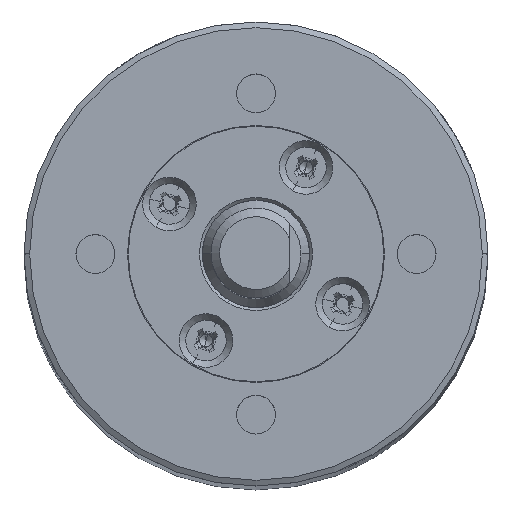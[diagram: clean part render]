
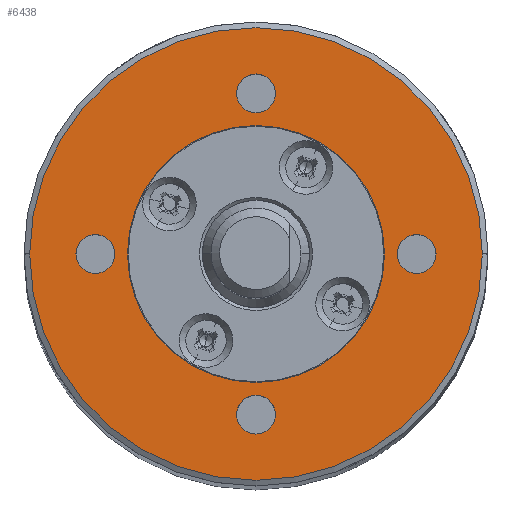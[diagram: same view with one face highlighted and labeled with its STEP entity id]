
A CAD part, top view. The second image highlights one B-rep face of the part: STEP entity #6438.
In plain terms, the highlighted planar face has unit normal (0, 0, 1).
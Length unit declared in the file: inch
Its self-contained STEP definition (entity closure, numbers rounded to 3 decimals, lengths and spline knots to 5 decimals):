
#44 = EDGE_CURVE ( 'NONE', #4057, #3678, #7652, .T. ) ;
#100 = VERTEX_POINT ( 'NONE', #13778 ) ;
#146 = DIRECTION ( 'NONE',  ( 0., 0., 1. ) ) ;
#404 = DIRECTION ( 'NONE',  ( 0., 0., 1. ) ) ;
#437 = ORIENTED_EDGE ( 'NONE', *, *, #15173, .T. ) ;
#618 = ORIENTED_EDGE ( 'NONE', *, *, #7665, .F. ) ;
#667 = EDGE_LOOP ( 'NONE', ( #14640, #437 ) ) ;
#679 = EDGE_CURVE ( 'NONE', #11219, #12968, #3047, .T. ) ;
#719 = ORIENTED_EDGE ( 'NONE', *, *, #15993, .F. ) ;
#811 = ORIENTED_EDGE ( 'NONE', *, *, #13935, .F. ) ;
#883 = FACE_BOUND ( 'NONE', #8934, .T. ) ;
#1019 = DIRECTION ( 'NONE',  ( 0., 0., 1. ) ) ;
#1065 = CARTESIAN_POINT ( 'NONE',  ( 0., 0., 4.92548 ) ) ;
#1158 = CIRCLE ( 'NONE', #6070, 0.068 ) ;
#1293 = CARTESIAN_POINT ( 'NONE',  ( 0.4945, 0., 4.92548 ) ) ;
#1330 = CIRCLE ( 'NONE', #15172, 0.45 ) ;
#1583 = EDGE_LOOP ( 'NONE', ( #6445, #719 ) ) ;
#1634 = CARTESIAN_POINT ( 'NONE',  ( 0.6305, 0., 4.92548 ) ) ;
#1653 = DIRECTION ( 'NONE',  ( 0., 0., 1. ) ) ;
#1659 = DIRECTION ( 'NONE',  ( 0., 0., 1. ) ) ;
#1705 = ORIENTED_EDGE ( 'NONE', *, *, #679, .F. ) ;
#1721 = CARTESIAN_POINT ( 'NONE',  ( -0.5625, 0., 4.92548 ) ) ;
#1866 = VERTEX_POINT ( 'NONE', #11350 ) ;
#1886 = AXIS2_PLACEMENT_3D ( 'NONE', #7502, #1019, #10137 ) ;
#1981 = VERTEX_POINT ( 'NONE', #2755 ) ;
#2609 = CARTESIAN_POINT ( 'NONE',  ( -0.5625, 0., 4.92548 ) ) ;
#2755 = CARTESIAN_POINT ( 'NONE',  ( -0.068, -0.5625, 4.92548 ) ) ;
#2911 = CIRCLE ( 'NONE', #16460, 0.068 ) ;
#3017 = DIRECTION ( 'NONE',  ( 1., 0., 0. ) ) ;
#3039 = CARTESIAN_POINT ( 'NONE',  ( 0., 0., 4.92548 ) ) ;
#3047 = CIRCLE ( 'NONE', #10658, 0.068 ) ;
#3049 = DIRECTION ( 'NONE',  ( 0., 0., 1. ) ) ;
#3272 = CARTESIAN_POINT ( 'NONE',  ( 0., 0.45, 4.92548 ) ) ;
#3368 = CIRCLE ( 'NONE', #14479, 0.45 ) ;
#3678 = VERTEX_POINT ( 'NONE', #7654 ) ;
#4057 = VERTEX_POINT ( 'NONE', #7403 ) ;
#4118 = EDGE_LOOP ( 'NONE', ( #15366, #1705 ) ) ;
#4120 = CARTESIAN_POINT ( 'NONE',  ( 0.45, 0., 4.92548 ) ) ;
#4143 = EDGE_CURVE ( 'NONE', #14711, #6701, #11647, .T. ) ;
#4273 = ORIENTED_EDGE ( 'NONE', *, *, #44, .F. ) ;
#4316 = CARTESIAN_POINT ( 'NONE',  ( 0.5625, 0., 4.92548 ) ) ;
#4452 = DIRECTION ( 'NONE',  ( 1., 0., 0. ) ) ;
#4751 = DIRECTION ( 'NONE',  ( -1., 0., 0. ) ) ;
#4852 = CIRCLE ( 'NONE', #14334, 0.7925 ) ;
#4899 = ORIENTED_EDGE ( 'NONE', *, *, #12578, .F. ) ;
#4909 = CIRCLE ( 'NONE', #10062, 0.068 ) ;
#4926 = DIRECTION ( 'NONE',  ( 0., 0., 1. ) ) ;
#5136 = AXIS2_PLACEMENT_3D ( 'NONE', #15517, #146, #5169 ) ;
#5169 = DIRECTION ( 'NONE',  ( 1., 0., 0. ) ) ;
#5393 = DIRECTION ( 'NONE',  ( 0., 0., 1. ) ) ;
#5430 = DIRECTION ( 'NONE',  ( 1., 0., 0. ) ) ;
#5485 = CIRCLE ( 'NONE', #14954, 0.7925 ) ;
#5773 = DIRECTION ( 'NONE',  ( 0., 0., 1. ) ) ;
#5942 = CARTESIAN_POINT ( 'NONE',  ( 0., 0.5625, 4.92548 ) ) ;
#6070 = AXIS2_PLACEMENT_3D ( 'NONE', #2609, #4926, #10110 ) ;
#6280 = EDGE_LOOP ( 'NONE', ( #811, #7003 ) ) ;
#6438 = ADVANCED_FACE ( 'NONE', ( #13542, #883, #7024, #13714, #9741, #16338 ), #14895, .F. ) ;
#6445 = ORIENTED_EDGE ( 'NONE', *, *, #12676, .F. ) ;
#6573 = AXIS2_PLACEMENT_3D ( 'NONE', #1721, #5393, #4452 ) ;
#6701 = VERTEX_POINT ( 'NONE', #1634 ) ;
#6716 = CARTESIAN_POINT ( 'NONE',  ( 0., 0.5625, 4.92548 ) ) ;
#7003 = ORIENTED_EDGE ( 'NONE', *, *, #4143, .F. ) ;
#7004 = EDGE_CURVE ( 'NONE', #16140, #14638, #4852, .T. ) ;
#7024 = FACE_BOUND ( 'NONE', #9183, .T. ) ;
#7131 = EDGE_CURVE ( 'NONE', #12968, #11219, #2911, .T. ) ;
#7403 = CARTESIAN_POINT ( 'NONE',  ( -0.6305, 0., 4.92548 ) ) ;
#7502 = CARTESIAN_POINT ( 'NONE',  ( 0., -0.5625, 4.92548 ) ) ;
#7652 = CIRCLE ( 'NONE', #6573, 0.068 ) ;
#7654 = CARTESIAN_POINT ( 'NONE',  ( -0.4945, 0., 4.92548 ) ) ;
#7665 = EDGE_CURVE ( 'NONE', #1866, #1981, #9502, .T. ) ;
#7748 = CARTESIAN_POINT ( 'NONE',  ( -0.7925, 0., 4.92548 ) ) ;
#8299 = DIRECTION ( 'NONE',  ( 1., 0., 0. ) ) ;
#8461 = DIRECTION ( 'NONE',  ( 0., 0., -1. ) ) ;
#8849 = VERTEX_POINT ( 'NONE', #4120 ) ;
#8884 = CARTESIAN_POINT ( 'NONE',  ( 0.068, 0.5625, 4.92548 ) ) ;
#8934 = EDGE_LOOP ( 'NONE', ( #618, #11962 ) ) ;
#9183 = EDGE_LOOP ( 'NONE', ( #4899, #4273 ) ) ;
#9224 = CARTESIAN_POINT ( 'NONE',  ( 0., -0.5625, 4.92548 ) ) ;
#9502 = CIRCLE ( 'NONE', #1886, 0.068 ) ;
#9514 = DIRECTION ( 'NONE',  ( -1., 0., 0. ) ) ;
#9741 = FACE_BOUND ( 'NONE', #1583, .T. ) ;
#10062 = AXIS2_PLACEMENT_3D ( 'NONE', #4316, #5773, #10954 ) ;
#10110 = DIRECTION ( 'NONE',  ( 1., 0., 0. ) ) ;
#10137 = DIRECTION ( 'NONE',  ( 1., 0., 0. ) ) ;
#10350 = AXIS2_PLACEMENT_3D ( 'NONE', #9224, #1653, #3017 ) ;
#10658 = AXIS2_PLACEMENT_3D ( 'NONE', #6716, #3049, #15692 ) ;
#10786 = DIRECTION ( 'NONE',  ( 0., 0., 1. ) ) ;
#10859 = DIRECTION ( 'NONE',  ( 0., 0., 1. ) ) ;
#10954 = DIRECTION ( 'NONE',  ( 1., 0., 0. ) ) ;
#11116 = DIRECTION ( 'NONE',  ( 1., 0., 0. ) ) ;
#11219 = VERTEX_POINT ( 'NONE', #13938 ) ;
#11350 = CARTESIAN_POINT ( 'NONE',  ( 0.068, -0.5625, 4.92548 ) ) ;
#11647 = CIRCLE ( 'NONE', #5136, 0.068 ) ;
#11765 = CARTESIAN_POINT ( 'NONE',  ( 0.7925, 0., 4.92548 ) ) ;
#11962 = ORIENTED_EDGE ( 'NONE', *, *, #14217, .F. ) ;
#12578 = EDGE_CURVE ( 'NONE', #3678, #4057, #1158, .T. ) ;
#12676 = EDGE_CURVE ( 'NONE', #8849, #100, #1330, .T. ) ;
#12799 = DIRECTION ( 'NONE',  ( 0., 0., 1. ) ) ;
#12968 = VERTEX_POINT ( 'NONE', #8884 ) ;
#13509 = AXIS2_PLACEMENT_3D ( 'NONE', #3272, #8461, #13632 ) ;
#13542 = FACE_BOUND ( 'NONE', #6280, .T. ) ;
#13632 = DIRECTION ( 'NONE',  ( -1., 0., 0. ) ) ;
#13714 = FACE_OUTER_BOUND ( 'NONE', #667, .T. ) ;
#13778 = CARTESIAN_POINT ( 'NONE',  ( -0.45, 0., 4.92548 ) ) ;
#13866 = CIRCLE ( 'NONE', #10350, 0.068 ) ;
#13935 = EDGE_CURVE ( 'NONE', #6701, #14711, #4909, .T. ) ;
#13938 = CARTESIAN_POINT ( 'NONE',  ( -0.068, 0.5625, 4.92548 ) ) ;
#14217 = EDGE_CURVE ( 'NONE', #1981, #1866, #13866, .T. ) ;
#14334 = AXIS2_PLACEMENT_3D ( 'NONE', #14921, #404, #9514 ) ;
#14479 = AXIS2_PLACEMENT_3D ( 'NONE', #15920, #1659, #8299 ) ;
#14638 = VERTEX_POINT ( 'NONE', #11765 ) ;
#14640 = ORIENTED_EDGE ( 'NONE', *, *, #7004, .T. ) ;
#14711 = VERTEX_POINT ( 'NONE', #1293 ) ;
#14895 = PLANE ( 'NONE',  #13509 ) ;
#14921 = CARTESIAN_POINT ( 'NONE',  ( 0., 0., 4.92548 ) ) ;
#14954 = AXIS2_PLACEMENT_3D ( 'NONE', #1065, #12799, #4751 ) ;
#15172 = AXIS2_PLACEMENT_3D ( 'NONE', #3039, #10859, #5430 ) ;
#15173 = EDGE_CURVE ( 'NONE', #14638, #16140, #5485, .T. ) ;
#15366 = ORIENTED_EDGE ( 'NONE', *, *, #7131, .F. ) ;
#15517 = CARTESIAN_POINT ( 'NONE',  ( 0.5625, 0., 4.92548 ) ) ;
#15692 = DIRECTION ( 'NONE',  ( 1., 0., 0. ) ) ;
#15920 = CARTESIAN_POINT ( 'NONE',  ( 0., 0., 4.92548 ) ) ;
#15993 = EDGE_CURVE ( 'NONE', #100, #8849, #3368, .T. ) ;
#16140 = VERTEX_POINT ( 'NONE', #7748 ) ;
#16338 = FACE_BOUND ( 'NONE', #4118, .T. ) ;
#16460 = AXIS2_PLACEMENT_3D ( 'NONE', #5942, #10786, #11116 ) ;
